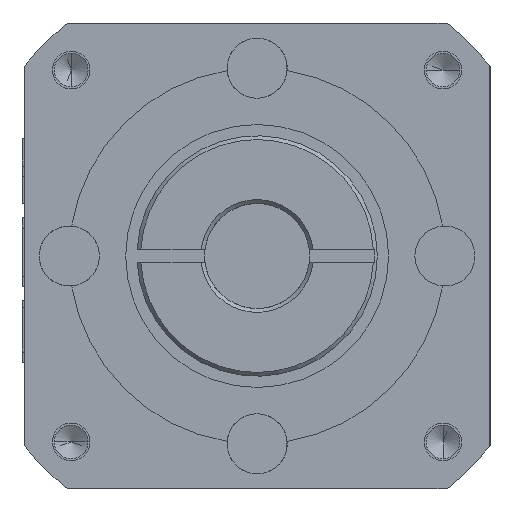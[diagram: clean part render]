
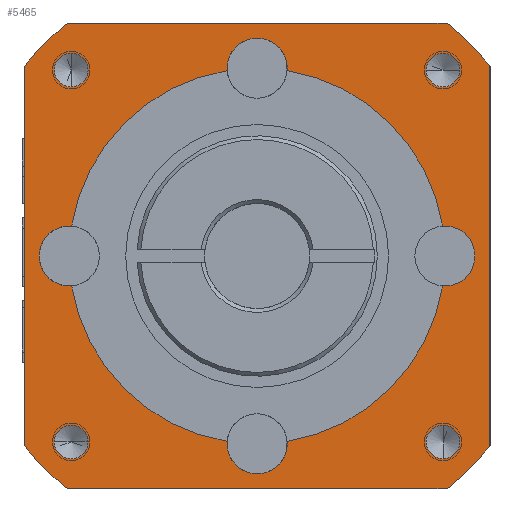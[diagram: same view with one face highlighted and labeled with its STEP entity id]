
A CAD part, left-side view. The second image highlights one B-rep face of the part: STEP entity #5465.
In plain terms, the highlighted planar face has unit normal (-1, 0, 0).
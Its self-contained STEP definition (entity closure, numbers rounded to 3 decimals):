
#1406=CARTESIAN_POINT('',(-83.,0.,0.));
#1407=DIRECTION('',(-1.,0.,0.));
#1408=DIRECTION('',(0.,-0.632,-0.775));
#1409=AXIS2_PLACEMENT_3D('',#1406,#1407,#1408);
#1411=DIRECTION('',(0.,-1.,0.));
#1412=VECTOR('',#1411,50.557);
#1413=CARTESIAN_POINT('',(-83.,25.278,-31.));
#1414=LINE('',#1413,#1412);
#1415=CARTESIAN_POINT('',(-83.,0.,0.));
#1416=DIRECTION('',(-1.,0.,0.));
#1417=DIRECTION('',(0.,0.775,-0.632));
#1418=AXIS2_PLACEMENT_3D('',#1415,#1416,#1417);
#1420=DIRECTION('',(0.,0.,-1.));
#1421=VECTOR('',#1420,50.557);
#1422=CARTESIAN_POINT('',(-83.,31.,25.278));
#1423=LINE('',#1422,#1421);
#1424=CARTESIAN_POINT('',(-83.,0.,0.));
#1425=DIRECTION('',(-1.,0.,0.));
#1426=DIRECTION('',(0.,0.632,0.775));
#1427=AXIS2_PLACEMENT_3D('',#1424,#1425,#1426);
#1429=DIRECTION('',(0.,1.,0.));
#1430=VECTOR('',#1429,50.557);
#1431=CARTESIAN_POINT('',(-83.,-25.278,31.));
#1432=LINE('',#1431,#1430);
#1433=CARTESIAN_POINT('',(-83.,0.,0.));
#1434=DIRECTION('',(-1.,0.,0.));
#1435=DIRECTION('',(0.,-0.775,0.632));
#1436=AXIS2_PLACEMENT_3D('',#1433,#1434,#1435);
#1438=DIRECTION('',(0.,0.,1.));
#1439=VECTOR('',#1438,50.557);
#1440=CARTESIAN_POINT('',(-83.,-31.,-25.278));
#1441=LINE('',#1440,#1439);
#1442=CARTESIAN_POINT('',(-83.,-24.749,24.749));
#1443=DIRECTION('',(-1.,0.,0.));
#1444=DIRECTION('',(0.,1.,0.));
#1445=AXIS2_PLACEMENT_3D('',#1442,#1443,#1444);
#1447=CARTESIAN_POINT('',(-83.,-24.749,24.749));
#1448=DIRECTION('',(-1.,0.,0.));
#1449=DIRECTION('',(0.,-1.,0.));
#1450=AXIS2_PLACEMENT_3D('',#1447,#1448,#1449);
#1452=CARTESIAN_POINT('',(-83.,-24.749,-24.749));
#1453=DIRECTION('',(-1.,0.,0.));
#1454=DIRECTION('',(0.,0.,1.));
#1455=AXIS2_PLACEMENT_3D('',#1452,#1453,#1454);
#1457=CARTESIAN_POINT('',(-83.,-24.749,-24.749));
#1458=DIRECTION('',(-1.,0.,0.));
#1459=DIRECTION('',(0.,0.,-1.));
#1460=AXIS2_PLACEMENT_3D('',#1457,#1458,#1459);
#1462=CARTESIAN_POINT('',(-83.,24.749,-24.749));
#1463=DIRECTION('',(-1.,0.,0.));
#1464=DIRECTION('',(0.,-1.,0.));
#1465=AXIS2_PLACEMENT_3D('',#1462,#1463,#1464);
#1467=CARTESIAN_POINT('',(-83.,24.749,-24.749));
#1468=DIRECTION('',(-1.,0.,0.));
#1469=DIRECTION('',(0.,1.,0.));
#1470=AXIS2_PLACEMENT_3D('',#1467,#1468,#1469);
#1472=CARTESIAN_POINT('',(-83.,24.749,24.749));
#1473=DIRECTION('',(-1.,0.,0.));
#1474=DIRECTION('',(0.,0.,-1.));
#1475=AXIS2_PLACEMENT_3D('',#1472,#1473,#1474);
#1477=CARTESIAN_POINT('',(-83.,24.749,24.749));
#1478=DIRECTION('',(-1.,0.,0.));
#1479=DIRECTION('',(0.,0.,1.));
#1480=AXIS2_PLACEMENT_3D('',#1477,#1478,#1479);
#1482=CARTESIAN_POINT('',(-83.,0.,25.));
#1483=DIRECTION('',(-1.,0.,0.));
#1484=DIRECTION('',(0.,-0.997,-0.08));
#1485=AXIS2_PLACEMENT_3D('',#1482,#1483,#1484);
#1487=CARTESIAN_POINT('',(-83.,0.,25.));
#1488=DIRECTION('',(-1.,0.,0.));
#1489=DIRECTION('',(0.,0.,1.));
#1490=AXIS2_PLACEMENT_3D('',#1487,#1488,#1489);
#1492=CARTESIAN_POINT('',(-83.,25.,0.));
#1493=DIRECTION('',(-1.,0.,0.));
#1494=DIRECTION('',(0.,-0.08,0.997));
#1495=AXIS2_PLACEMENT_3D('',#1492,#1493,#1494);
#1497=CARTESIAN_POINT('',(-83.,25.,0.));
#1498=DIRECTION('',(-1.,0.,0.));
#1499=DIRECTION('',(0.,1.,0.));
#1500=AXIS2_PLACEMENT_3D('',#1497,#1498,#1499);
#1502=CARTESIAN_POINT('',(-83.,0.,-25.));
#1503=DIRECTION('',(-1.,0.,0.));
#1504=DIRECTION('',(0.,0.997,0.08));
#1505=AXIS2_PLACEMENT_3D('',#1502,#1503,#1504);
#1507=CARTESIAN_POINT('',(-83.,0.,-25.));
#1508=DIRECTION('',(-1.,0.,0.));
#1509=DIRECTION('',(0.,0.,-1.));
#1510=AXIS2_PLACEMENT_3D('',#1507,#1508,#1509);
#1512=CARTESIAN_POINT('',(-83.,-25.,0.));
#1513=DIRECTION('',(-1.,0.,0.));
#1514=DIRECTION('',(0.,0.08,-0.997));
#1515=AXIS2_PLACEMENT_3D('',#1512,#1513,#1514);
#1517=CARTESIAN_POINT('',(-83.,-25.,0.));
#1518=DIRECTION('',(-1.,0.,0.));
#1519=DIRECTION('',(0.,-1.,0.));
#1520=AXIS2_PLACEMENT_3D('',#1517,#1518,#1519);
#2010=CARTESIAN_POINT('',(-83.,0.,0.));
#2011=DIRECTION('',(1.,0.,0.));
#2012=DIRECTION('',(0.,0.159,-0.987));
#2013=AXIS2_PLACEMENT_3D('',#2010,#2011,#2012);
#2028=CARTESIAN_POINT('',(-83.,0.,0.));
#2029=DIRECTION('',(1.,0.,0.));
#2030=DIRECTION('',(0.,-0.987,-0.159));
#2031=AXIS2_PLACEMENT_3D('',#2028,#2029,#2030);
#2046=CARTESIAN_POINT('',(-83.,0.,0.));
#2047=DIRECTION('',(1.,0.,0.));
#2048=DIRECTION('',(0.,-0.159,0.987));
#2049=AXIS2_PLACEMENT_3D('',#2046,#2047,#2048);
#2073=CARTESIAN_POINT('',(-83.,0.,0.));
#2074=DIRECTION('',(1.,0.,0.));
#2075=DIRECTION('',(0.,0.987,0.159));
#2076=AXIS2_PLACEMENT_3D('',#2073,#2074,#2075);
#3084=CARTESIAN_POINT('',(-83.,-25.278,-31.));
#3085=CARTESIAN_POINT('',(-83.,-31.,-25.278));
#3086=VERTEX_POINT('',#3084);
#3087=VERTEX_POINT('',#3085);
#3088=CARTESIAN_POINT('',(-83.,-31.,25.278));
#3089=CARTESIAN_POINT('',(-83.,-25.278,31.));
#3090=VERTEX_POINT('',#3088);
#3091=VERTEX_POINT('',#3089);
#3092=CARTESIAN_POINT('',(-83.,25.278,31.));
#3093=CARTESIAN_POINT('',(-83.,31.,25.278));
#3094=VERTEX_POINT('',#3092);
#3095=VERTEX_POINT('',#3093);
#3096=CARTESIAN_POINT('',(-83.,31.,-25.278));
#3097=CARTESIAN_POINT('',(-83.,25.278,-31.));
#3098=VERTEX_POINT('',#3096);
#3099=VERTEX_POINT('',#3097);
#3418=CARTESIAN_POINT('',(-83.,-22.499,24.749));
#3419=CARTESIAN_POINT('',(-83.,-26.999,24.749));
#3420=VERTEX_POINT('',#3418);
#3421=VERTEX_POINT('',#3419);
#3428=CARTESIAN_POINT('',(-83.,-24.749,-22.499));
#3429=CARTESIAN_POINT('',(-83.,-24.749,-26.999));
#3430=VERTEX_POINT('',#3428);
#3431=VERTEX_POINT('',#3429);
#3438=CARTESIAN_POINT('',(-83.,22.499,-24.749));
#3439=CARTESIAN_POINT('',(-83.,26.999,-24.749));
#3440=VERTEX_POINT('',#3438);
#3441=VERTEX_POINT('',#3439);
#3448=CARTESIAN_POINT('',(-83.,24.749,22.499));
#3449=CARTESIAN_POINT('',(-83.,24.749,26.999));
#3450=VERTEX_POINT('',#3448);
#3451=VERTEX_POINT('',#3449);
#3456=CARTESIAN_POINT('',(-83.,24.68,3.987));
#3457=CARTESIAN_POINT('',(-83.,29.,0.));
#3458=VERTEX_POINT('',#3456);
#3459=VERTEX_POINT('',#3457);
#3460=CARTESIAN_POINT('',(-83.,24.68,-3.987));
#3461=VERTEX_POINT('',#3460);
#3472=CARTESIAN_POINT('',(-83.,3.987,-24.68));
#3473=CARTESIAN_POINT('',(-83.,0.,-29.));
#3474=VERTEX_POINT('',#3472);
#3475=VERTEX_POINT('',#3473);
#3476=CARTESIAN_POINT('',(-83.,-3.987,-24.68));
#3477=VERTEX_POINT('',#3476);
#3488=CARTESIAN_POINT('',(-83.,-24.68,-3.987));
#3489=CARTESIAN_POINT('',(-83.,-29.,0.));
#3490=VERTEX_POINT('',#3488);
#3491=VERTEX_POINT('',#3489);
#3492=CARTESIAN_POINT('',(-83.,-24.68,3.987));
#3493=VERTEX_POINT('',#3492);
#3504=CARTESIAN_POINT('',(-83.,-3.987,24.68));
#3505=CARTESIAN_POINT('',(-83.,0.,29.));
#3506=VERTEX_POINT('',#3504);
#3507=VERTEX_POINT('',#3505);
#3508=CARTESIAN_POINT('',(-83.,3.987,24.68));
#3509=VERTEX_POINT('',#3508);
#5398=CARTESIAN_POINT('',(-83.,0.,0.));
#5399=DIRECTION('',(-1.,0.,0.));
#5400=DIRECTION('',(0.,0.,1.));
#5401=AXIS2_PLACEMENT_3D('',#5398,#5399,#5400);
#5402=PLANE('',#5401);
#5403=ORIENTED_EDGE('',*,*,#5320,.F.);
#5404=ORIENTED_EDGE('',*,*,#5351,.F.);
#5405=ORIENTED_EDGE('',*,*,#5379,.F.);
#5407=ORIENTED_EDGE('',*,*,#5406,.F.);
#5408=ORIENTED_EDGE('',*,*,#5364,.F.);
#5409=ORIENTED_EDGE('',*,*,#5391,.F.);
#5410=ORIENTED_EDGE('',*,*,#5335,.F.);
#5412=ORIENTED_EDGE('',*,*,#5411,.F.);
#5413=EDGE_LOOP('',(#5403,#5404,#5405,#5407,#5408,#5409,#5410,#5412));
#5414=FACE_OUTER_BOUND('',#5413,.F.);
#5416=ORIENTED_EDGE('',*,*,#5415,.T.);
#5418=ORIENTED_EDGE('',*,*,#5417,.T.);
#5419=EDGE_LOOP('',(#5416,#5418));
#5420=FACE_BOUND('',#5419,.F.);
#5422=ORIENTED_EDGE('',*,*,#5421,.T.);
#5424=ORIENTED_EDGE('',*,*,#5423,.T.);
#5425=EDGE_LOOP('',(#5422,#5424));
#5426=FACE_BOUND('',#5425,.F.);
#5428=ORIENTED_EDGE('',*,*,#5427,.T.);
#5430=ORIENTED_EDGE('',*,*,#5429,.T.);
#5431=EDGE_LOOP('',(#5428,#5430));
#5432=FACE_BOUND('',#5431,.F.);
#5434=ORIENTED_EDGE('',*,*,#5433,.T.);
#5436=ORIENTED_EDGE('',*,*,#5435,.T.);
#5437=EDGE_LOOP('',(#5434,#5436));
#5438=FACE_BOUND('',#5437,.F.);
#5440=ORIENTED_EDGE('',*,*,#5439,.T.);
#5442=ORIENTED_EDGE('',*,*,#5441,.T.);
#5444=ORIENTED_EDGE('',*,*,#5443,.F.);
#5446=ORIENTED_EDGE('',*,*,#5445,.T.);
#5448=ORIENTED_EDGE('',*,*,#5447,.T.);
#5450=ORIENTED_EDGE('',*,*,#5449,.F.);
#5452=ORIENTED_EDGE('',*,*,#5451,.T.);
#5454=ORIENTED_EDGE('',*,*,#5453,.T.);
#5456=ORIENTED_EDGE('',*,*,#5455,.F.);
#5458=ORIENTED_EDGE('',*,*,#5457,.T.);
#5460=ORIENTED_EDGE('',*,*,#5459,.T.);
#5462=ORIENTED_EDGE('',*,*,#5461,.F.);
#5463=EDGE_LOOP('',(#5440,#5442,#5444,#5446,#5448,#5450,#5452,#5454,#5456,#5458,
#5460,#5462));
#5464=FACE_BOUND('',#5463,.F.);
#5465=ADVANCED_FACE('',(#5414,#5420,#5426,#5432,#5438,#5464),#5402,.T.);
#1410=CIRCLE('',#1409,40.);
#1419=CIRCLE('',#1418,40.);
#1428=CIRCLE('',#1427,40.);
#1437=CIRCLE('',#1436,40.);
#1446=CIRCLE('',#1445,2.25);
#1451=CIRCLE('',#1450,2.25);
#1456=CIRCLE('',#1455,2.25);
#1461=CIRCLE('',#1460,2.25);
#1466=CIRCLE('',#1465,2.25);
#1471=CIRCLE('',#1470,2.25);
#1476=CIRCLE('',#1475,2.25);
#1481=CIRCLE('',#1480,2.25);
#1486=CIRCLE('',#1485,4.);
#1491=CIRCLE('',#1490,4.);
#1496=CIRCLE('',#1495,4.);
#1501=CIRCLE('',#1500,4.);
#1506=CIRCLE('',#1505,4.);
#1511=CIRCLE('',#1510,4.);
#1516=CIRCLE('',#1515,4.);
#1521=CIRCLE('',#1520,4.);
#2014=CIRCLE('',#2013,25.);
#2032=CIRCLE('',#2031,25.);
#2050=CIRCLE('',#2049,25.);
#2077=CIRCLE('',#2076,25.);
#5320=EDGE_CURVE('',#3086,#3087,#1410,.T.);
#5335=EDGE_CURVE('',#3090,#3091,#1437,.T.);
#5351=EDGE_CURVE('',#3099,#3086,#1414,.T.);
#5364=EDGE_CURVE('',#3094,#3095,#1428,.T.);
#5379=EDGE_CURVE('',#3098,#3099,#1419,.T.);
#5391=EDGE_CURVE('',#3091,#3094,#1432,.T.);
#5406=EDGE_CURVE('',#3095,#3098,#1423,.T.);
#5411=EDGE_CURVE('',#3087,#3090,#1441,.T.);
#5415=EDGE_CURVE('',#3420,#3421,#1446,.T.);
#5417=EDGE_CURVE('',#3421,#3420,#1451,.T.);
#5421=EDGE_CURVE('',#3430,#3431,#1456,.T.);
#5423=EDGE_CURVE('',#3431,#3430,#1461,.T.);
#5427=EDGE_CURVE('',#3440,#3441,#1466,.T.);
#5429=EDGE_CURVE('',#3441,#3440,#1471,.T.);
#5433=EDGE_CURVE('',#3450,#3451,#1476,.T.);
#5435=EDGE_CURVE('',#3451,#3450,#1481,.T.);
#5439=EDGE_CURVE('',#3506,#3507,#1486,.T.);
#5441=EDGE_CURVE('',#3507,#3509,#1491,.T.);
#5443=EDGE_CURVE('',#3458,#3509,#2077,.T.);
#5445=EDGE_CURVE('',#3458,#3459,#1496,.T.);
#5447=EDGE_CURVE('',#3459,#3461,#1501,.T.);
#5449=EDGE_CURVE('',#3474,#3461,#2014,.T.);
#5451=EDGE_CURVE('',#3474,#3475,#1506,.T.);
#5453=EDGE_CURVE('',#3475,#3477,#1511,.T.);
#5455=EDGE_CURVE('',#3490,#3477,#2032,.T.);
#5457=EDGE_CURVE('',#3490,#3491,#1516,.T.);
#5459=EDGE_CURVE('',#3491,#3493,#1521,.T.);
#5461=EDGE_CURVE('',#3506,#3493,#2050,.T.);
